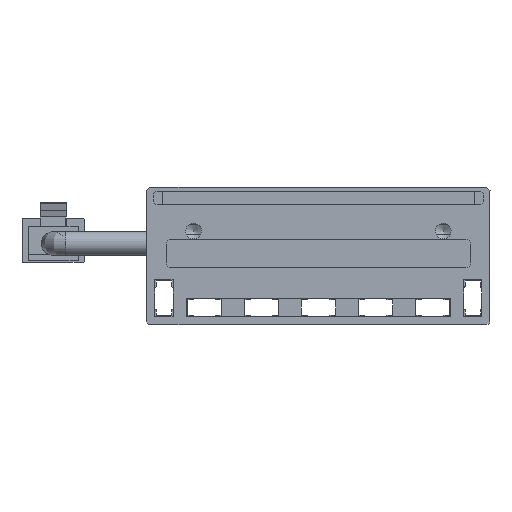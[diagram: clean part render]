
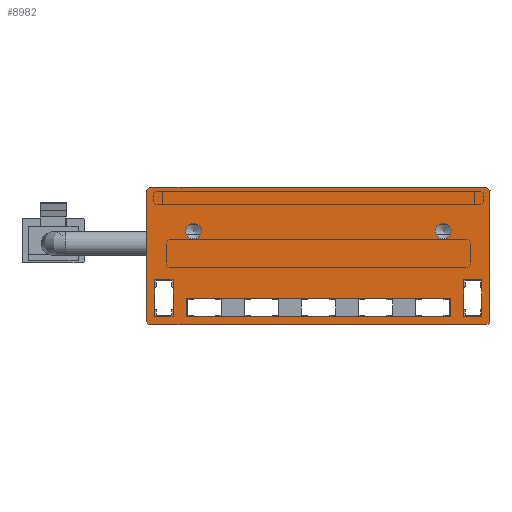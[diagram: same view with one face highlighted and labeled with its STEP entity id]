
A CAD part, front view. The second image highlights one B-rep face of the part: STEP entity #8982.
In plain terms, the highlighted planar face has unit normal (0, -1, 0).
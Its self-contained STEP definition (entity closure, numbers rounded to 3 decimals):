
#72=FACE_BOUND('',#1382,.T.);
#73=FACE_BOUND('',#1383,.T.);
#74=FACE_BOUND('',#1384,.T.);
#75=FACE_BOUND('',#1385,.T.);
#76=FACE_BOUND('',#1386,.T.);
#453=CIRCLE('',#9739,1.265);
#455=CIRCLE('',#9743,1.265);
#457=CIRCLE('',#9759,0.5);
#459=CIRCLE('',#9767,0.5);
#913=FACE_OUTER_BOUND('',#1381,.T.);
#1381=EDGE_LOOP('',(#8141,#8142,#8143,#8144,#8145,#8146,#8147,#8148));
#1382=EDGE_LOOP('',(#8149));
#1383=EDGE_LOOP('',(#8150));
#1384=EDGE_LOOP('',(#8151,#8152,#8153,#8154));
#1385=EDGE_LOOP('',(#8155,#8156,#8157,#8158));
#1386=EDGE_LOOP('',(#8159,#8160,#8161,#8162));
#2379=LINE('',#14772,#3408);
#2382=LINE('',#14778,#3411);
#2385=LINE('',#14784,#3414);
#2388=LINE('',#14788,#3417);
#2391=LINE('',#14796,#3420);
#2394=LINE('',#14802,#3423);
#2397=LINE('',#14808,#3426);
#2400=LINE('',#14812,#3429);
#2403=LINE('',#14820,#3432);
#2406=LINE('',#14826,#3435);
#2409=LINE('',#14832,#3438);
#2412=LINE('',#14836,#3441);
#2415=LINE('',#14844,#3444);
#2419=LINE('',#14856,#3448);
#2422=LINE('',#14862,#3451);
#2425=LINE('',#14868,#3454);
#2428=LINE('',#14874,#3457);
#2431=LINE('',#14880,#3460);
#3408=VECTOR('',#12148,10.);
#3411=VECTOR('',#12153,10.);
#3414=VECTOR('',#12158,10.);
#3417=VECTOR('',#12163,10.);
#3420=VECTOR('',#12168,10.);
#3423=VECTOR('',#12173,10.);
#3426=VECTOR('',#12178,10.);
#3429=VECTOR('',#12183,10.);
#3432=VECTOR('',#12188,10.);
#3435=VECTOR('',#12193,10.);
#3438=VECTOR('',#12198,10.);
#3441=VECTOR('',#12203,10.);
#3444=VECTOR('',#12208,10.);
#3448=VECTOR('',#12220,10.);
#3451=VECTOR('',#12225,10.);
#3454=VECTOR('',#12230,10.);
#3457=VECTOR('',#12235,10.);
#3460=VECTOR('',#12240,10.);
#4280=VERTEX_POINT('',#14753);
#4283=VERTEX_POINT('',#14762);
#4286=VERTEX_POINT('',#14769);
#4287=VERTEX_POINT('',#14771);
#4289=VERTEX_POINT('',#14777);
#4291=VERTEX_POINT('',#14783);
#4294=VERTEX_POINT('',#14793);
#4295=VERTEX_POINT('',#14795);
#4297=VERTEX_POINT('',#14801);
#4299=VERTEX_POINT('',#14807);
#4302=VERTEX_POINT('',#14817);
#4303=VERTEX_POINT('',#14819);
#4305=VERTEX_POINT('',#14825);
#4307=VERTEX_POINT('',#14831);
#4310=VERTEX_POINT('',#14841);
#4311=VERTEX_POINT('',#14843);
#4313=VERTEX_POINT('',#14849);
#4315=VERTEX_POINT('',#14855);
#4317=VERTEX_POINT('',#14861);
#4319=VERTEX_POINT('',#14867);
#4321=VERTEX_POINT('',#14873);
#4323=VERTEX_POINT('',#14879);
#5551=EDGE_CURVE('',#4280,#4280,#453,.T.);
#5555=EDGE_CURVE('',#4283,#4283,#455,.T.);
#5559=EDGE_CURVE('',#4287,#4286,#2379,.T.);
#5562=EDGE_CURVE('',#4289,#4287,#2382,.T.);
#5565=EDGE_CURVE('',#4291,#4289,#2385,.T.);
#5568=EDGE_CURVE('',#4286,#4291,#2388,.T.);
#5571=EDGE_CURVE('',#4295,#4294,#2391,.T.);
#5574=EDGE_CURVE('',#4297,#4295,#2394,.T.);
#5577=EDGE_CURVE('',#4299,#4297,#2397,.T.);
#5580=EDGE_CURVE('',#4294,#4299,#2400,.T.);
#5583=EDGE_CURVE('',#4303,#4302,#2403,.T.);
#5586=EDGE_CURVE('',#4305,#4303,#2406,.T.);
#5589=EDGE_CURVE('',#4307,#4305,#2409,.T.);
#5592=EDGE_CURVE('',#4302,#4307,#2412,.T.);
#5595=EDGE_CURVE('',#4311,#4310,#2415,.T.);
#5598=EDGE_CURVE('',#4313,#4311,#457,.T.);
#5601=EDGE_CURVE('',#4315,#4313,#2419,.T.);
#5604=EDGE_CURVE('',#4317,#4315,#2422,.T.);
#5607=EDGE_CURVE('',#4319,#4317,#2425,.T.);
#5610=EDGE_CURVE('',#4321,#4319,#2428,.T.);
#5613=EDGE_CURVE('',#4323,#4321,#2431,.T.);
#5616=EDGE_CURVE('',#4310,#4323,#459,.T.);
#8141=ORIENTED_EDGE('',*,*,#5616,.T.);
#8142=ORIENTED_EDGE('',*,*,#5613,.T.);
#8143=ORIENTED_EDGE('',*,*,#5610,.T.);
#8144=ORIENTED_EDGE('',*,*,#5607,.T.);
#8145=ORIENTED_EDGE('',*,*,#5604,.T.);
#8146=ORIENTED_EDGE('',*,*,#5601,.T.);
#8147=ORIENTED_EDGE('',*,*,#5598,.T.);
#8148=ORIENTED_EDGE('',*,*,#5595,.T.);
#8149=ORIENTED_EDGE('',*,*,#5551,.T.);
#8150=ORIENTED_EDGE('',*,*,#5555,.T.);
#8151=ORIENTED_EDGE('',*,*,#5592,.T.);
#8152=ORIENTED_EDGE('',*,*,#5589,.T.);
#8153=ORIENTED_EDGE('',*,*,#5586,.T.);
#8154=ORIENTED_EDGE('',*,*,#5583,.T.);
#8155=ORIENTED_EDGE('',*,*,#5580,.T.);
#8156=ORIENTED_EDGE('',*,*,#5577,.T.);
#8157=ORIENTED_EDGE('',*,*,#5574,.T.);
#8158=ORIENTED_EDGE('',*,*,#5571,.T.);
#8159=ORIENTED_EDGE('',*,*,#5568,.T.);
#8160=ORIENTED_EDGE('',*,*,#5565,.T.);
#8161=ORIENTED_EDGE('',*,*,#5562,.T.);
#8162=ORIENTED_EDGE('',*,*,#5559,.T.);
#8527=PLANE('',#9768);
#8982=ADVANCED_FACE('',(#913,#72,#73,#74,#75,#76),#8527,.T.);
#9739=AXIS2_PLACEMENT_3D('',#14754,#12131,#12132);
#9743=AXIS2_PLACEMENT_3D('',#14763,#12141,#12142);
#9759=AXIS2_PLACEMENT_3D('',#14850,#12214,#12215);
#9767=AXIS2_PLACEMENT_3D('',#14884,#12246,#12247);
#9768=AXIS2_PLACEMENT_3D('',#14885,#12248,#12249);
#12131=DIRECTION('center_axis',(0.,1.,0.));
#12132=DIRECTION('ref_axis',(0.,0.,-1.));
#12141=DIRECTION('center_axis',(0.,1.,0.));
#12142=DIRECTION('ref_axis',(0.,0.,-1.));
#12148=DIRECTION('',(0.,0.,-1.));
#12153=DIRECTION('',(1.,0.,0.));
#12158=DIRECTION('',(0.,0.,1.));
#12163=DIRECTION('',(-1.,0.,0.));
#12168=DIRECTION('',(0.,0.,-1.));
#12173=DIRECTION('',(1.,0.,0.));
#12178=DIRECTION('',(0.,0.,1.));
#12183=DIRECTION('',(-1.,0.,0.));
#12188=DIRECTION('',(0.,0.,-1.));
#12193=DIRECTION('',(1.,0.,0.));
#12198=DIRECTION('',(0.,0.,1.));
#12203=DIRECTION('',(-1.,0.,0.));
#12208=DIRECTION('',(1.,0.,0.));
#12214=DIRECTION('center_axis',(0.,-1.,0.));
#12215=DIRECTION('ref_axis',(-1.,0.,0.));
#12220=DIRECTION('',(0.,0.,-1.));
#12225=DIRECTION('',(-0.707,0.,-0.707));
#12230=DIRECTION('',(-1.,0.,0.));
#12235=DIRECTION('',(-0.707,0.,0.707));
#12240=DIRECTION('',(0.,0.,1.));
#12246=DIRECTION('center_axis',(0.,-1.,0.));
#12247=DIRECTION('ref_axis',(0.,0.,-1.));
#12248=DIRECTION('center_axis',(0.,-1.,0.));
#12249=DIRECTION('ref_axis',(1.,0.,0.));
#14753=CARTESIAN_POINT('',(-20.,-390.,16.265));
#14754=CARTESIAN_POINT('Origin',(-20.,-390.,15.));
#14762=CARTESIAN_POINT('',(20.,-390.,16.265));
#14763=CARTESIAN_POINT('Origin',(20.,-390.,15.));
#14769=CARTESIAN_POINT('',(26.2,-390.,1.3));
#14771=CARTESIAN_POINT('',(26.2,-390.,7.2));
#14772=CARTESIAN_POINT('',(26.2,-390.,7.2));
#14777=CARTESIAN_POINT('',(23.3,-390.,7.2));
#14778=CARTESIAN_POINT('',(23.3,-390.,7.2));
#14783=CARTESIAN_POINT('',(23.3,-390.,1.3));
#14784=CARTESIAN_POINT('',(23.3,-390.,1.3));
#14788=CARTESIAN_POINT('',(26.2,-390.,1.3));
#14793=CARTESIAN_POINT('',(21.2,-390.,1.3));
#14795=CARTESIAN_POINT('',(21.2,-390.,4.2));
#14796=CARTESIAN_POINT('',(21.2,-390.,4.2));
#14801=CARTESIAN_POINT('',(-21.2,-390.,4.2));
#14802=CARTESIAN_POINT('',(-21.2,-390.,4.2));
#14807=CARTESIAN_POINT('',(-21.2,-390.,1.3));
#14808=CARTESIAN_POINT('',(-21.2,-390.,1.3));
#14812=CARTESIAN_POINT('',(21.2,-390.,1.3));
#14817=CARTESIAN_POINT('',(-23.3,-390.,1.3));
#14819=CARTESIAN_POINT('',(-23.3,-390.,7.2));
#14820=CARTESIAN_POINT('',(-23.3,-390.,7.2));
#14825=CARTESIAN_POINT('',(-26.2,-390.,7.2));
#14826=CARTESIAN_POINT('',(-26.2,-390.,7.2));
#14831=CARTESIAN_POINT('',(-26.2,-390.,1.3));
#14832=CARTESIAN_POINT('',(-26.2,-390.,1.3));
#14836=CARTESIAN_POINT('',(-23.3,-390.,1.3));
#14841=CARTESIAN_POINT('',(27.,-390.,0.));
#14843=CARTESIAN_POINT('',(-27.,-390.,0.));
#14844=CARTESIAN_POINT('',(-22.,-390.,0.));
#14849=CARTESIAN_POINT('',(-27.5,-390.,0.5));
#14850=CARTESIAN_POINT('Origin',(-27.,-390.,0.5));
#14855=CARTESIAN_POINT('',(-27.5,-390.,21.5));
#14856=CARTESIAN_POINT('',(-27.5,-390.,21.5));
#14861=CARTESIAN_POINT('',(-27.,-390.,22.));
#14862=CARTESIAN_POINT('',(-27.,-390.,22.));
#14867=CARTESIAN_POINT('',(27.,-390.,22.));
#14868=CARTESIAN_POINT('',(27.,-390.,22.));
#14873=CARTESIAN_POINT('',(27.5,-390.,21.5));
#14874=CARTESIAN_POINT('',(27.5,-390.,21.5));
#14879=CARTESIAN_POINT('',(27.5,-390.,0.5));
#14880=CARTESIAN_POINT('',(27.5,-390.,21.5));
#14884=CARTESIAN_POINT('Origin',(27.,-390.,0.5));
#14885=CARTESIAN_POINT('Origin',(0.,-390.,11.));
